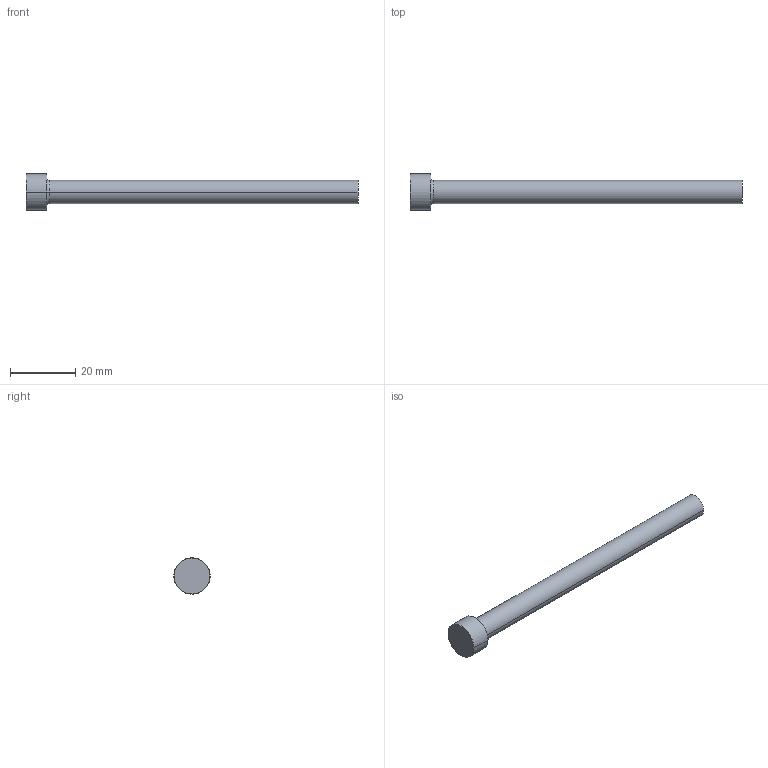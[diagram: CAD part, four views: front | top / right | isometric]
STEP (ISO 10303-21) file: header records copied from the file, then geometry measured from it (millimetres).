
FILE_DESCRIPTION (( 'STEP AP214' ), '1' );
FILE_NAME ('P19-4.STEP', '2020-03-12T08:58:48', ( '' ), ( '' ), 'SwSTEP 2.0', 'SolidWorks 2018', '' );
FILE_SCHEMA (( 'AUTOMOTIVE_DESIGN' ));
Length unit declared in the file: inch
Products named in the file (1): P19-4
Bounding box: 101.6 x 11.11 x 11.11 mm (x, y, z)
Volume: 4428 mm3; surface area: 2539.8 mm2
Topology: 1 solids, 1 shells, 13 faces, 24 edges, 14 vertices
Faces by surface type: cone 4, cylinder 4, plane 3, torus 2
Entity records: 366 total; most frequent: DIRECTION 68, CARTESIAN_POINT 52, ORIENTED_EDGE 48, AXIS2_PLACEMENT_3D 30, EDGE_CURVE 24, CIRCLE 16, VERTEX_POINT 14, EDGE_LOOP 14
